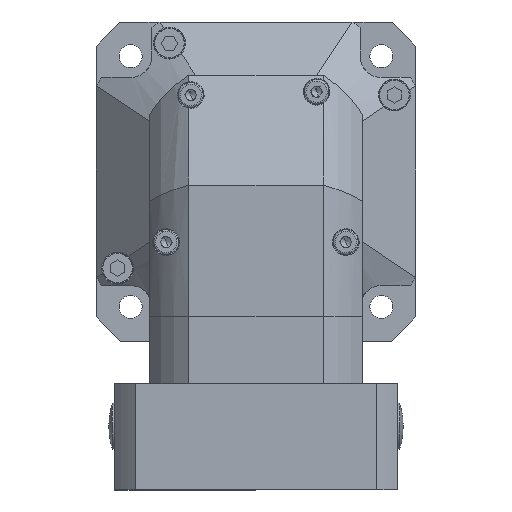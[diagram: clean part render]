
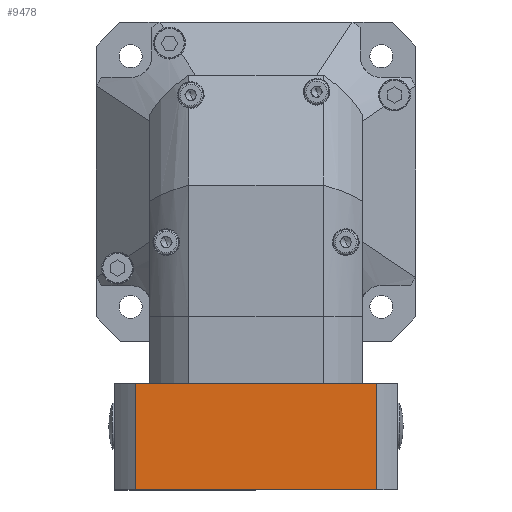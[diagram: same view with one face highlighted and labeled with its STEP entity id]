
A CAD part, left-side view. The second image highlights one B-rep face of the part: STEP entity #9478.
In plain terms, the highlighted planar face has unit normal (-1, 0, 0).
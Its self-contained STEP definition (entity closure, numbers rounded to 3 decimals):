
#249 = ORIENTED_EDGE ( 'NONE', *, *, #19083, .T. ) ;
#474 = LINE ( 'NONE', #19974, #13304 ) ;
#1843 = CARTESIAN_POINT ( 'NONE',  ( -111., 34.004, -87. ) ) ;
#2913 = VERTEX_POINT ( 'NONE', #16917 ) ;
#3698 = VECTOR ( 'NONE', #7606, 1000. ) ;
#3910 = EDGE_CURVE ( 'NONE', #2913, #15744, #474, .T. ) ;
#5341 = DIRECTION ( 'NONE',  ( 1., 0., 0. ) ) ;
#7606 = DIRECTION ( 'NONE',  ( 0., 1., 0. ) ) ;
#8200 = ORIENTED_EDGE ( 'NONE', *, *, #9335, .T. ) ;
#8325 = LINE ( 'NONE', #9147, #3698 ) ;
#8634 = CARTESIAN_POINT ( 'NONE',  ( -111., 34.004, -87. ) ) ;
#9021 = DIRECTION ( 'NONE',  ( 0., 0., 1. ) ) ;
#9147 = CARTESIAN_POINT ( 'NONE',  ( -111., 34.004, -57. ) ) ;
#9335 = EDGE_CURVE ( 'NONE', #17946, #12559, #8325, .T. ) ;
#9478 = ADVANCED_FACE ( 'NONE', ( #10770 ), #15837, .F. ) ;
#10770 = FACE_OUTER_BOUND ( 'NONE', #16742, .T. ) ;
#11702 = CARTESIAN_POINT ( 'NONE',  ( -111., -34.004, -57. ) ) ;
#12559 = VERTEX_POINT ( 'NONE', #14314 ) ;
#13304 = VECTOR ( 'NONE', #16407, 1000. ) ;
#14314 = CARTESIAN_POINT ( 'NONE',  ( -111., 34.004, -57. ) ) ;
#14917 = VECTOR ( 'NONE', #22661, 1000. ) ;
#15589 = ORIENTED_EDGE ( 'NONE', *, *, #3910, .F. ) ;
#15744 = VERTEX_POINT ( 'NONE', #8634 ) ;
#15837 = PLANE ( 'NONE',  #17462 ) ;
#16249 = LINE ( 'NONE', #17783, #20389 ) ;
#16407 = DIRECTION ( 'NONE',  ( 0., 1., 0. ) ) ;
#16742 = EDGE_LOOP ( 'NONE', ( #8200, #16794, #15589, #249 ) ) ;
#16794 = ORIENTED_EDGE ( 'NONE', *, *, #20364, .F. ) ;
#16917 = CARTESIAN_POINT ( 'NONE',  ( -111., -34.004, -87. ) ) ;
#17338 = CARTESIAN_POINT ( 'NONE',  ( -111., -34.004, -87. ) ) ;
#17462 = AXIS2_PLACEMENT_3D ( 'NONE', #1843, #5341, #17612 ) ;
#17612 = DIRECTION ( 'NONE',  ( 0., -1., 0. ) ) ;
#17783 = CARTESIAN_POINT ( 'NONE',  ( -111., 34.004, -87. ) ) ;
#17946 = VERTEX_POINT ( 'NONE', #11702 ) ;
#19083 = EDGE_CURVE ( 'NONE', #2913, #17946, #20182, .T. ) ;
#19974 = CARTESIAN_POINT ( 'NONE',  ( -111., 34.004, -87. ) ) ;
#20182 = LINE ( 'NONE', #17338, #14917 ) ;
#20364 = EDGE_CURVE ( 'NONE', #15744, #12559, #16249, .T. ) ;
#20389 = VECTOR ( 'NONE', #9021, 1000. ) ;
#22661 = DIRECTION ( 'NONE',  ( 0., 0., 1. ) ) ;
